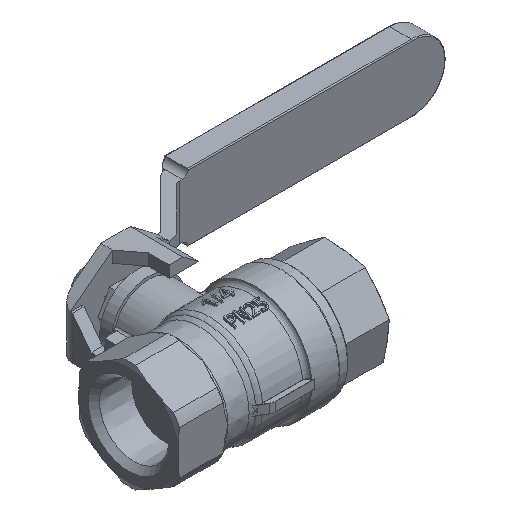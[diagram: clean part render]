
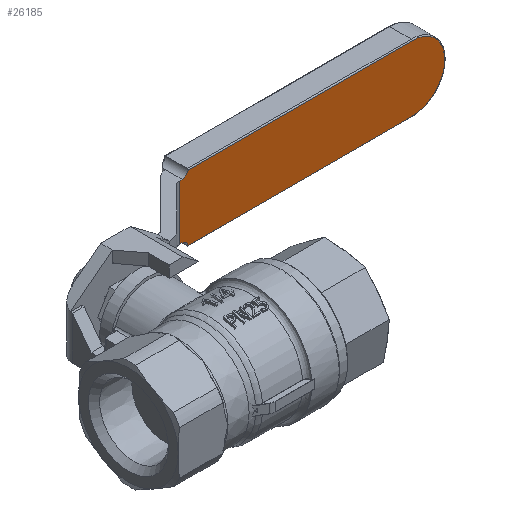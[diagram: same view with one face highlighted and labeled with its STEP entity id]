
A CAD part, isometric view. The second image highlights one B-rep face of the part: STEP entity #26185.
In plain terms, the highlighted planar face has unit normal (0, -1, 0).
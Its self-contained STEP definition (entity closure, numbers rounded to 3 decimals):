
#25246=CARTESIAN_POINT('',(12.671,34.4,-5.996));
#25247=VERTEX_POINT('',#25246);
#25254=CARTESIAN_POINT('',(12.046,34.4,-5.996));
#25255=VERTEX_POINT('',#25254);
#25256=CARTESIAN_POINT('',(12.046,34.4,-5.996));
#25257=DIRECTION('',(1.,0.,0.));
#25258=VECTOR('',#25257,0.625);
#25259=LINE('',#25256,#25258);
#25260=EDGE_CURVE('',#25255,#25247,#25259,.T.);
#25569=CARTESIAN_POINT('',(12.044,34.4,6.004));
#25570=VERTEX_POINT('',#25569);
#25578=CARTESIAN_POINT('',(12.669,34.4,6.004));
#25579=VERTEX_POINT('',#25578);
#25580=CARTESIAN_POINT('',(12.669,34.4,6.004));
#25581=DIRECTION('',(-1.,0.,0.));
#25582=VECTOR('',#25581,0.625);
#25583=LINE('',#25580,#25582);
#25584=EDGE_CURVE('',#25579,#25570,#25583,.T.);
#25637=CARTESIAN_POINT('',(13.953,34.4,7.104));
#25638=VERTEX_POINT('',#25637);
#25652=CARTESIAN_POINT('',(62.649,34.4,7.112));
#25653=VERTEX_POINT('',#25652);
#25654=CARTESIAN_POINT('',(13.953,34.4,7.104));
#25655=DIRECTION('',(1.,0.0,0.));
#25656=VECTOR('',#25655,48.695);
#25657=LINE('',#25654,#25656);
#25658=EDGE_CURVE('',#25638,#25653,#25657,.T.);
#25683=CARTESIAN_POINT('',(62.651,34.4,-7.088));
#25684=VERTEX_POINT('',#25683);
#25702=CARTESIAN_POINT('',(62.65,34.4,0.012));
#25703=DIRECTION('',(0.,1.,0.));
#25704=DIRECTION('',(1.,0.,0.));
#25705=AXIS2_PLACEMENT_3D('',#25702,#25703,#25704);
#25706=CIRCLE('',#25705,7.1);
#25707=EDGE_CURVE('',#25653,#25684,#25706,.T.);
#25717=CARTESIAN_POINT('',(13.956,34.4,-7.096));
#25718=VERTEX_POINT('',#25717);
#25741=CARTESIAN_POINT('',(62.651,34.4,-7.088));
#25742=DIRECTION('',(-1.,0.0,0.));
#25743=VECTOR('',#25742,48.695);
#25744=LINE('',#25741,#25743);
#25745=EDGE_CURVE('',#25684,#25718,#25744,.T.);
#25836=CARTESIAN_POINT('',(12.671,34.4,-7.296));
#25837=DIRECTION('',(0.,-1.,0.));
#25838=DIRECTION('',(0.,0.,-1.));
#25839=AXIS2_PLACEMENT_3D('',#25836,#25837,#25838);
#25840=CIRCLE('',#25839,1.3);
#25841=EDGE_CURVE('',#25718,#25247,#25840,.T.);
#26063=CARTESIAN_POINT('',(12.669,34.4,7.304));
#26064=DIRECTION('',(0.,-1.0,0.));
#26065=DIRECTION('',(-1.,0.,0.));
#26066=AXIS2_PLACEMENT_3D('',#26063,#26064,#26065);
#26067=CIRCLE('',#26066,1.3);
#26068=EDGE_CURVE('',#25579,#25638,#26067,.T.);
#26159=CARTESIAN_POINT('',(12.044,34.4,6.004));
#26160=DIRECTION('',(0.,0.0,-1.));
#26161=VECTOR('',#26160,12.);
#26162=LINE('',#26159,#26161);
#26163=EDGE_CURVE('',#25570,#25255,#26162,.T.);
#26170=CARTESIAN_POINT('',(40.108,34.4,0.008));
#26171=DIRECTION('',(0.0,1.0,0.0));
#26172=DIRECTION('',(1.,0.0,0.));
#26173=AXIS2_PLACEMENT_3D('',#26170,#26171,#26172);
#26174=PLANE('',#26173);
#26175=ORIENTED_EDGE('',*,*,#25658,.F.);
#26176=ORIENTED_EDGE('',*,*,#26068,.F.);
#26177=ORIENTED_EDGE('',*,*,#25584,.T.);
#26178=ORIENTED_EDGE('',*,*,#26163,.T.);
#26179=ORIENTED_EDGE('',*,*,#25260,.T.);
#26180=ORIENTED_EDGE('',*,*,#25841,.F.);
#26181=ORIENTED_EDGE('',*,*,#25745,.F.);
#26182=ORIENTED_EDGE('',*,*,#25707,.F.);
#26183=EDGE_LOOP('',(#26175,#26176,#26177,#26178,#26179,#26180,#26181,#26182));
#26184=FACE_OUTER_BOUND('',#26183,.T.);
#26185=ADVANCED_FACE('',(#26184),#26174,.F.);
